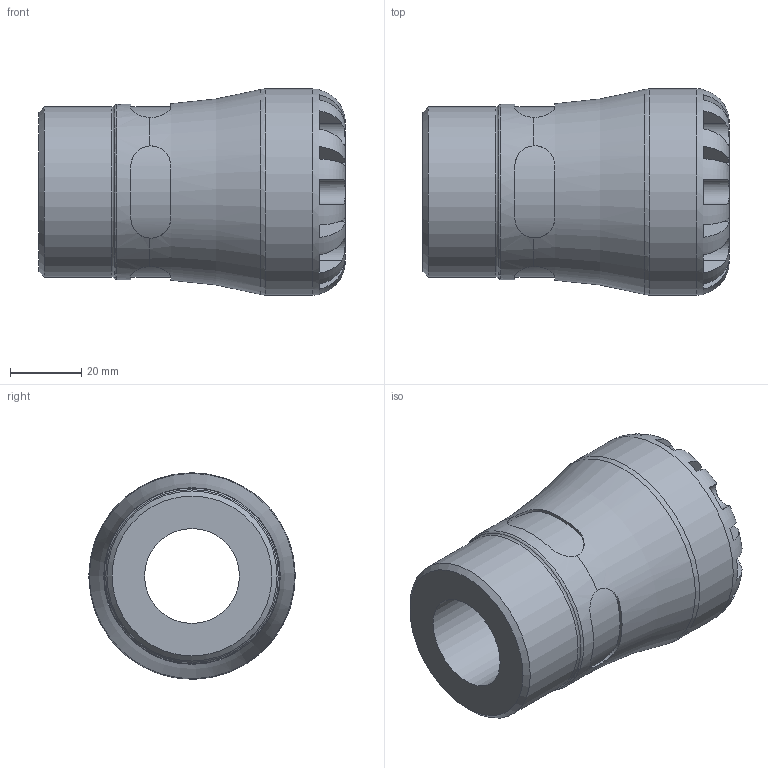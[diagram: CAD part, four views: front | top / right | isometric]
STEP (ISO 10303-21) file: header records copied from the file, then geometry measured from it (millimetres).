
FILE_DESCRIPTION(/* description */ ('PLASSON MALE ADAPTOR 32X1.1/2" SERIES 1'),/* implementation_level */ '2;1');
FILE_NAME(/* name */ 'C:\Dropbox\KIMPROJECTS-Inventor\99-16-3568-Processing\S1\1002\100200032015_190200032015.ipt.stp',/* time_stamp */ '2017-07-27T14:39:26+03:00',/* author */ ('KIM'),/* organization */ (''),/* preprocessor_version */ 'ST-DEVELOPER v15.6',/* originating_system */ 'Autodesk Inventor 2015',/* authorisation */ '');
FILE_SCHEMA (('AUTOMOTIVE_DESIGN { 1 0 10303 214 3 1 1 }'));
Length unit declared in the file: millimetre
Products named in the file (1): 100200032015_190200032015
Bounding box: 86 x 58 x 58 mm (x, y, z)
Volume: 117513.7 mm3; surface area: 26491.1 mm2
Topology: 1 solids, 1 shells, 99 faces, 257 edges, 161 vertices
Faces by surface type: plane 59, cylinder 33, torus 5, cone 2
Full cylindrical faces by diameter (mm): 26.667 x1, 32 x1, 47.803 x1, 49.3 x1, 58 x1
Entity records: 3750 total; most frequent: CARTESIAN_POINT 1448, ORIENTED_EDGE 482, DIRECTION 458, EDGE_CURVE 241, AXIS2_PLACEMENT_3D 189, VERTEX_POINT 157, EDGE_LOOP 114, FACE_OUTER_BOUND 99
